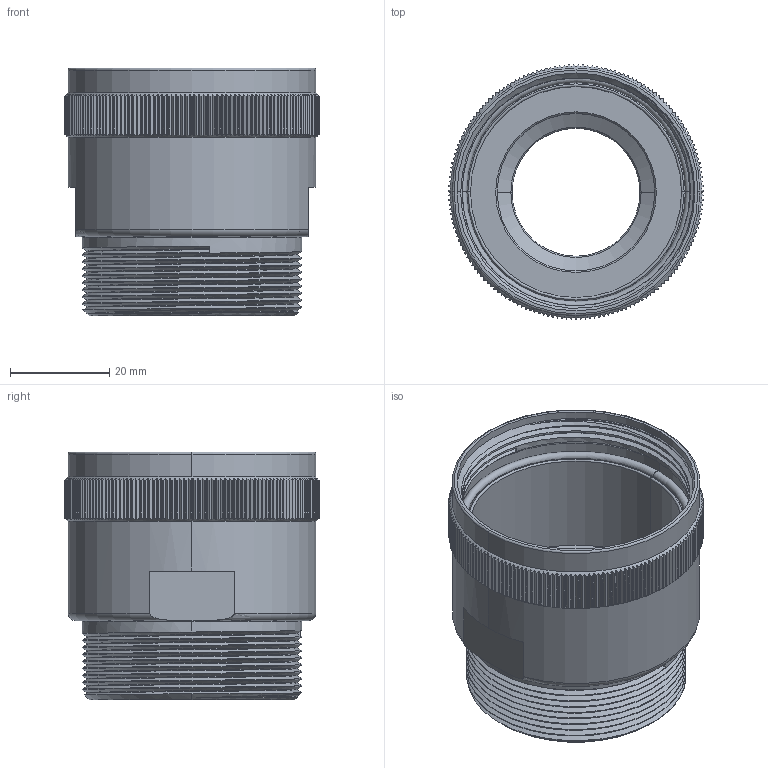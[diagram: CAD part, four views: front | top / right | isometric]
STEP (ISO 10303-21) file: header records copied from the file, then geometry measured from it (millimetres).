
FILE_DESCRIPTION (( 'STEP AP203' ), '1' );
FILE_NAME ('CE02-32BS-S-D.STEP', '2018-07-31T01:55:05', ( '' ), ( '' ), 'SwSTEP 2.0', 'SolidWorks 2018', '' );
FILE_SCHEMA (( 'CONFIG_CONTROL_DESIGN' ));
Length unit declared in the file: millimetre
Products named in the file (1): CE02-32BS-S-D
Bounding box: 51.4 x 51.4 x 50 mm (x, y, z)
Volume: 29056.2 mm3; surface area: 19103.7 mm2
Topology: 1 solids, 1 shells, 1124 faces, 3313 edges, 2193 vertices
Faces by surface type: cylinder 723, plane 352, torus 22, cone 21, bspline 6
Entity records: 48445 total; most frequent: CARTESIAN_POINT 21638, ORIENTED_EDGE 6626, DIRECTION 4194, EDGE_CURVE 3313, VERTEX_POINT 2193, B_SPLINE_CURVE_WITH_KNOTS 1735, AXIS2_PLACEMENT_3D 1551, EDGE_LOOP 1128
